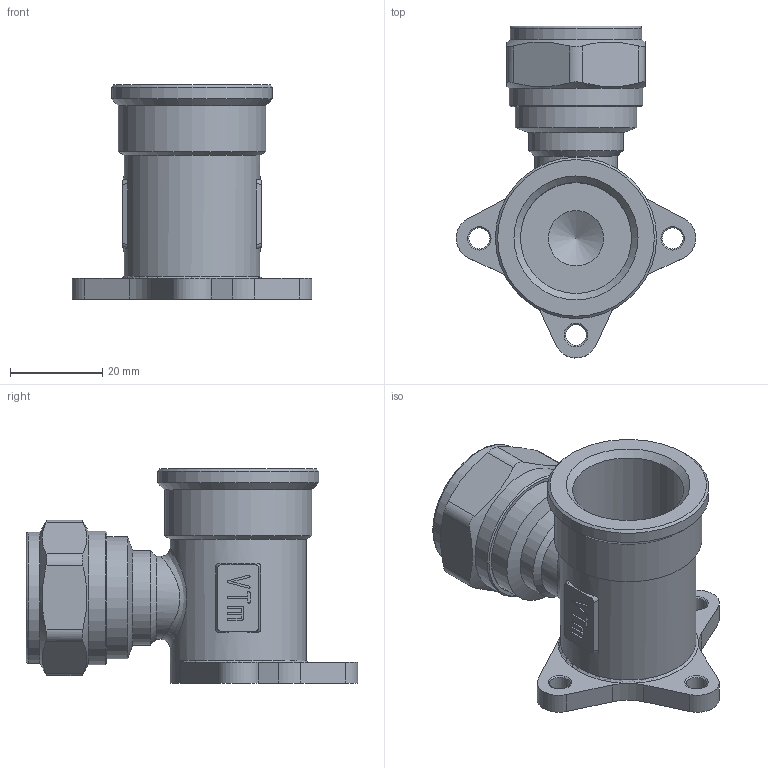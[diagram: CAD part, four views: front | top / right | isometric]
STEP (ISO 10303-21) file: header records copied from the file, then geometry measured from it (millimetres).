
FILE_DESCRIPTION(('STEP AP203'), '1');
FILE_NAME('VTm.354.N.002005', '', ('UNSPECIFIED'), ('UNSPECIFIED'), 'C3D Converter', 'C3D Toolkit', '');
FILE_SCHEMA(('CONFIG_CONTROL_DESIGN'));
Length unit declared in the file: millimetre
Products named in the file (1): ВР.302635.117.000 СБ
Bounding box: 51.98 x 72.01 x 46.5 mm (x, y, z)
Volume: 28895.2 mm3; surface area: 18856.1 mm2
Topology: 1 solids, 1 shells, 460 faces, 1261 edges, 831 vertices
Faces by surface type: extrusion 195, plane 162, cylinder 51, torus 28, cone 23, bspline 1
Full cylindrical faces by diameter (mm): 4.5 x3, 11.5 x1, 15.8 x4, 15.9 x1, 18 x1, 20.1 x1, 20.2 x1, 20.5 x1, 20.7 x1, 24.118 x2, 26.441 x1, 28.5 x1, 29 x1, 29.5 x1, 32 x1, 35 x1
Entity records: 16719 total; most frequent: CARTESIAN_POINT 6130, ORIENTED_EDGE 2402, DIRECTION 1558, EDGE_CURVE 1201, VERTEX_POINT 830, VECTOR 762, B_SPLINE_CURVE_WITH_KNOTS 661, LINE 567
